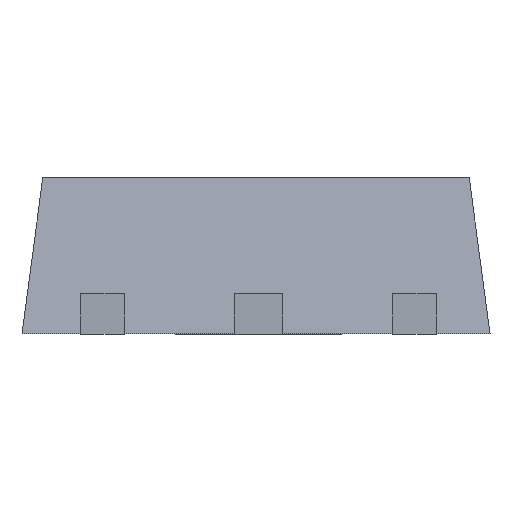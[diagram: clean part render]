
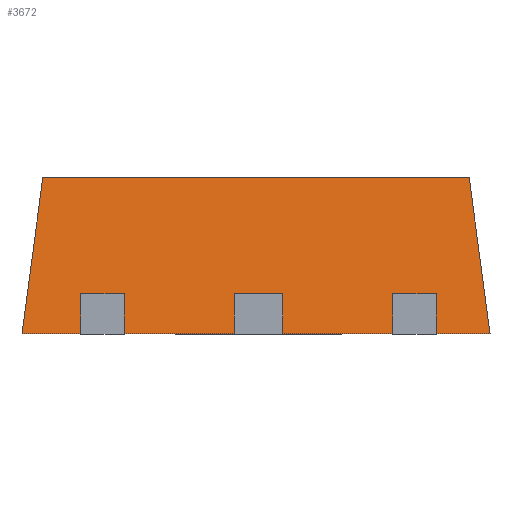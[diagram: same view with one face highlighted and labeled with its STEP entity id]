
A CAD part, front view. The second image highlights one B-rep face of the part: STEP entity #3672.
In plain terms, the highlighted planar face has unit normal (0, -0.991, 0.132).
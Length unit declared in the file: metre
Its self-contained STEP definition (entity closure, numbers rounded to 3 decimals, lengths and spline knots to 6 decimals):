
#2006 = EDGE_CURVE( '', #4972, #5122, #5123, .T. );
#2278 = EDGE_CURVE( '', #5530, #5122, #5531, .T. );
#2380 = EDGE_CURVE( '', #5530, #5672, #5673, .T. );
#3010 = EDGE_CURVE( '', #4972, #5672, #6504, .T. );
#3672 = ADVANCED_FACE( '', ( #7290 ), #7291, .T. );
#4972 = VERTEX_POINT( '', #9141 );
#5122 = VERTEX_POINT( '', #9362 );
#5123 = LINE( '', #9363, #9364 );
#5530 = VERTEX_POINT( '', #9993 );
#5531 = LINE( '', #9994, #9995 );
#5672 = VERTEX_POINT( '', #10225 );
#5673 = LINE( '', #10226, #10227 );
#6504 = LINE( '', #11585, #11586 );
#7290 = FACE_OUTER_BOUND( '', #12941, .T. );
#7291 = PLANE( '', #12942 );
#9141 = CARTESIAN_POINT( '', ( 0.002019, -0.001051, 0.001499 ) );
#9362 = CARTESIAN_POINT( '', ( -0.002081, -0.001051, 0.001499 ) );
#9363 = CARTESIAN_POINT( '', ( -0.001156, -0.001051, 0.001499 ) );
#9364 = VECTOR( '', #14937, 1. );
#9993 = CARTESIAN_POINT( '', ( -0.002281, -0.001251, 0. ) );
#9994 = CARTESIAN_POINT( '', ( -0.002157, -0.001127, 0.000929 ) );
#9995 = VECTOR( '', #15446, 1. );
#10225 = CARTESIAN_POINT( '', ( 0.002219, -0.001251, 0. ) );
#10226 = CARTESIAN_POINT( '', ( -0.002281, -0.001251, 0. ) );
#10227 = VECTOR( '', #15621, 1. );
#11585 = CARTESIAN_POINT( '', ( 0.002087, -0.001118, 0.000994 ) );
#11586 = VECTOR( '', #16608, 1. );
#12941 = EDGE_LOOP( '', ( #17771, #17772, #17773, #17774 ) );
#12942 = AXIS2_PLACEMENT_3D( '', #17775, #17776, #17777 );
#14937 = DIRECTION( '', ( -1., 0., 0. ) );
#15446 = DIRECTION( '', ( 0.131, 0.131, 0.983 ) );
#15621 = DIRECTION( '', ( 1., 0., 0. ) );
#16608 = DIRECTION( '', ( 0.131, -0.131, -0.983 ) );
#17771 = ORIENTED_EDGE( '', *, *, #2278, .F. );
#17772 = ORIENTED_EDGE( '', *, *, #2380, .T. );
#17773 = ORIENTED_EDGE( '', *, *, #3010, .F. );
#17774 = ORIENTED_EDGE( '', *, *, #2006, .T. );
#17775 = CARTESIAN_POINT( '', ( -0.001156, -0.001151, 0.000749 ) );
#17776 = DIRECTION( '', ( 0., -0.991, 0.132 ) );
#17777 = DIRECTION( '', ( -1., 0., 0. ) );
